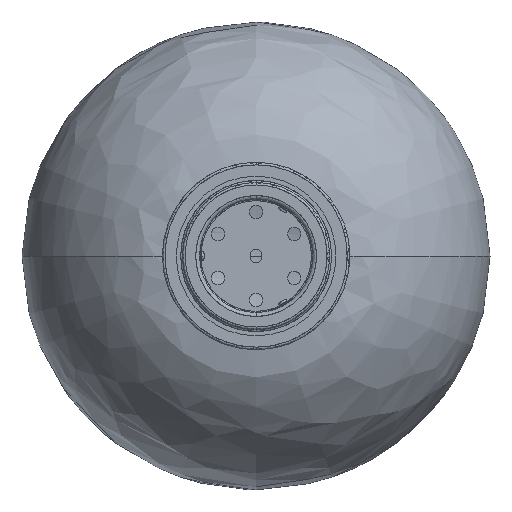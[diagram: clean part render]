
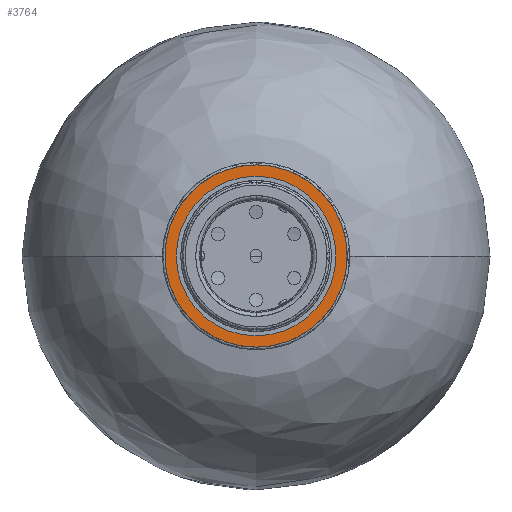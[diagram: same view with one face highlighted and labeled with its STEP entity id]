
A CAD part, front view. The second image highlights one B-rep face of the part: STEP entity #3764.
In plain terms, the highlighted planar face has unit normal (0, -1, 0).
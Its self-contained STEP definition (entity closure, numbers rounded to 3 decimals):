
#55 = CARTESIAN_POINT ( 'NONE',  ( 145., -12.211, 72.5 ) ) ;
#333 = FACE_BOUND ( 'NONE', #2016, .T. ) ;
#403 = EDGE_CURVE ( 'NONE', #7555, #3578, #9731, .T. ) ;
#522 = CARTESIAN_POINT ( 'NONE',  ( -145., -12.211, -72.5 ) ) ;
#679 = EDGE_LOOP ( 'NONE', ( #1346, #1699 ) ) ;
#937 = CARTESIAN_POINT ( 'NONE',  ( 0., -12.211, -72.5 ) ) ;
#1049 = CARTESIAN_POINT ( 'NONE',  ( 0., -12.211, 0. ) ) ;
#1057 = CARTESIAN_POINT ( 'NONE',  ( 63.5, -12.211, 0. ) ) ;
#1346 = ORIENTED_EDGE ( 'NONE', *, *, #3403, .F. ) ;
#1699 = ORIENTED_EDGE ( 'NONE', *, *, #10197, .F. ) ;
#2016 = EDGE_LOOP ( 'NONE', ( #4740, #5432 ) ) ;
#2017 = DIRECTION ( 'NONE',  ( 0., 0., -1. ) ) ;
#2294 = CARTESIAN_POINT ( 'NONE',  ( 0., -12.211, 72.5 ) ) ;
#2516 = VERTEX_POINT ( 'NONE', #7716 ) ;
#2685 = FACE_OUTER_BOUND ( 'NONE', #679, .T. ) ;
#3403 = EDGE_CURVE ( 'NONE', #10614, #2516, #10854, .T. ) ;
#3558 = DIRECTION ( 'NONE',  ( 0., 1., 0. ) ) ;
#3578 = VERTEX_POINT ( 'NONE', #1057 ) ;
#3727 = PLANE ( 'NONE',  #5095 ) ;
#3764 = ADVANCED_FACE ( 'NONE', ( #333, #2685 ), #3727, .T. ) ;
#4479 = CARTESIAN_POINT ( 'NONE',  ( 0., -12.211, 72.5 ) ) ;
#4560 = DIRECTION ( 'NONE',  ( 0., 1., 0. ) ) ;
#4740 = ORIENTED_EDGE ( 'NONE', *, *, #403, .T. ) ;
#5095 = AXIS2_PLACEMENT_3D ( 'NONE', #10943, #7381, #2017 ) ;
#5432 = ORIENTED_EDGE ( 'NONE', *, *, #10958, .T. ) ;
#6278 = CARTESIAN_POINT ( 'NONE',  ( 145., -12.211, -72.5 ) ) ;
#6755 = CARTESIAN_POINT ( 'NONE',  ( 0., -12.211, -72.5 ) ) ;
#6766 =( BOUNDED_CURVE ( )  B_SPLINE_CURVE ( 3, ( #6755, #522, #7668, #2294 ),
 .UNSPECIFIED., .F., .F. ) 
 B_SPLINE_CURVE_WITH_KNOTS ( ( 4, 4 ),
 ( 0., 1. ),
 .UNSPECIFIED. ) 
 CURVE ( )  GEOMETRIC_REPRESENTATION_ITEM ( )  RATIONAL_B_SPLINE_CURVE ( ( 1., 0.333, 0.333, 1. ) ) 
 REPRESENTATION_ITEM ( '' )  );
#7015 = AXIS2_PLACEMENT_3D ( 'NONE', #8933, #3558, #9839 ) ;
#7381 = DIRECTION ( 'NONE',  ( 0., -1., 0. ) ) ;
#7555 = VERTEX_POINT ( 'NONE', #9393 ) ;
#7668 = CARTESIAN_POINT ( 'NONE',  ( -145., -12.211, 72.5 ) ) ;
#7716 = CARTESIAN_POINT ( 'NONE',  ( 0., -12.211, -72.5 ) ) ;
#8933 = CARTESIAN_POINT ( 'NONE',  ( 0., -12.211, 0. ) ) ;
#9133 = CARTESIAN_POINT ( 'NONE',  ( 0., -12.211, 72.5 ) ) ;
#9393 = CARTESIAN_POINT ( 'NONE',  ( -63.5, -12.211, 0. ) ) ;
#9413 = AXIS2_PLACEMENT_3D ( 'NONE', #1049, #4560, #11503 ) ;
#9731 = CIRCLE ( 'NONE', #9413, 63.5 ) ;
#9839 = DIRECTION ( 'NONE',  ( -1., 0., 0. ) ) ;
#10197 = EDGE_CURVE ( 'NONE', #2516, #10614, #6766, .T. ) ;
#10614 = VERTEX_POINT ( 'NONE', #9133 ) ;
#10854 =( BOUNDED_CURVE ( )  B_SPLINE_CURVE ( 3, ( #4479, #55, #6278, #937 ),
 .UNSPECIFIED., .F., .F. ) 
 B_SPLINE_CURVE_WITH_KNOTS ( ( 4, 4 ),
 ( 0., 1. ),
 .UNSPECIFIED. ) 
 CURVE ( )  GEOMETRIC_REPRESENTATION_ITEM ( )  RATIONAL_B_SPLINE_CURVE ( ( 1., 0.333, 0.333, 1. ) ) 
 REPRESENTATION_ITEM ( '' )  );
#10943 = CARTESIAN_POINT ( 'NONE',  ( 72.5, -12.211, 0. ) ) ;
#10958 = EDGE_CURVE ( 'NONE', #3578, #7555, #11356, .T. ) ;
#11356 = CIRCLE ( 'NONE', #7015, 63.5 ) ;
#11503 = DIRECTION ( 'NONE',  ( -1., 0., 0. ) ) ;
